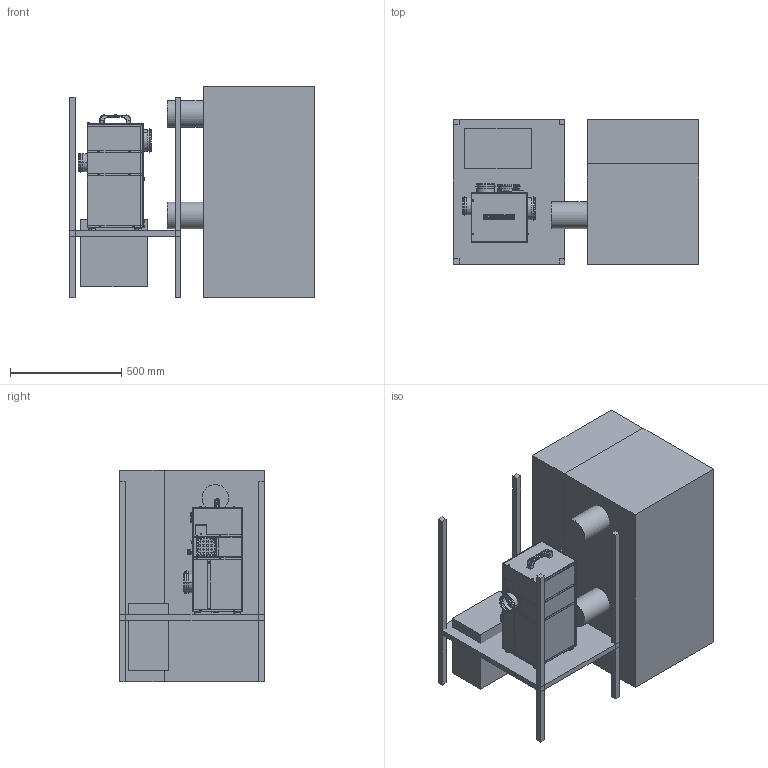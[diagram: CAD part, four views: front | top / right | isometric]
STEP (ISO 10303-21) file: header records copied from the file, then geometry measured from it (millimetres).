
FILE_DESCRIPTION(('Open CASCADE Model'),'2;1');
FILE_NAME('Open CASCADE Shape Model','2026-10-06T04:04:15',('Author'),( 'Open CASCADE'),'Open CASCADE STEP processor 7.7','Open CASCADE 7.7' ,'Unknown');
FILE_SCHEMA(('AUTOMOTIVE_DESIGN { 1 0 10303 214 1 1 1 1 }'));
Length unit declared in the file: millimetre
Products named in the file (24): CAB120_DST_R01_ENGINEERING_ENVELOPES; CABINET_ENVELOPE_NOT_SHEETMETAL; CABINET_ENVELOPE_NOT_SHEETMETAL_part; REAR_BUDGET_ENVELOPE; REAR_BUDGET_ENVELOPE_part; DST_ORIGINAL_32_SOLIDS_AXIS_MAPPED; DST_ORIGINAL_32_SOLIDS_AXIS_MAPPED_part; SKID_POST_0_0; SKID_POST_0_0_part; SKID_POST_0_1; SKID_POST_0_1_part; SKID_POST_1_0; SKID_POST_1_0_part; SKID_POST_1_1; SKID_POST_1_1_part; SKID_SHELF_BUDGET; SKID_SHELF_BUDGET_part; INTERFACE_BOX_ENVELOPE; INTERFACE_BOX_ENVELOPE_part; DN100_VALVE_CLEARANCE_ONLY_0; DN100_VALVE_CLEARANCE_ONLY_0_part; DN100_VALVE_CLEARANCE_ONLY_1; DN100_VALVE_CLEARANCE_ONLY_1_part
Assembly tree (23 placements, depth 4):
  CAB120_DST_R01_ENGINEERING_ENVELOPES
    CAB120_DST_R01_ENGINEERING_ENVELOPES
      CABINET_ENVELOPE_NOT_SHEETMETAL
        CABINET_ENVELOPE_NOT_SHEETMETAL_part
      REAR_BUDGET_ENVELOPE
        REAR_BUDGET_ENVELOPE_part
      DST_ORIGINAL_32_SOLIDS_AXIS_MAPPED
        DST_ORIGINAL_32_SOLIDS_AXIS_MAPPED_part
      SKID_POST_0_0
        SKID_POST_0_0_part
      SKID_POST_0_1
        SKID_POST_0_1_part
      SKID_POST_1_0
        SKID_POST_1_0_part
      SKID_POST_1_1
        SKID_POST_1_1_part
      SKID_SHELF_BUDGET
        SKID_SHELF_BUDGET_part
      INTERFACE_BOX_ENVELOPE
        INTERFACE_BOX_ENVELOPE_part
      DN100_VALVE_CLEARANCE_ONLY_0
        DN100_VALVE_CLEARANCE_ONLY_0_part
      DN100_VALVE_CLEARANCE_ONLY_1
        DN100_VALVE_CLEARANCE_ONLY_1_part
Bounding box: 1100 x 650 x 950 mm (x, y, z)
Volume: 246456142.9 mm3; surface area: 8514512.7 mm2
Topology: 42 solids, 73 shells, 4216 faces, 10005 edges, 6208 vertices
Faces by surface type: plane 1891, cylinder 1142, cone 659, torus 416, bspline 92, sphere 16
Full cylindrical faces by diameter (mm): 120 x2
Entity records: 283284 total; most frequent: CARTESIAN_POINT 77553, DIRECTION 39654, LINE 23282, VECTOR 23282, ORIENTED_EDGE 19994, PCURVE 19994, DEFINITIONAL_REPRESENTATION 19994, EDGE_CURVE 9997
